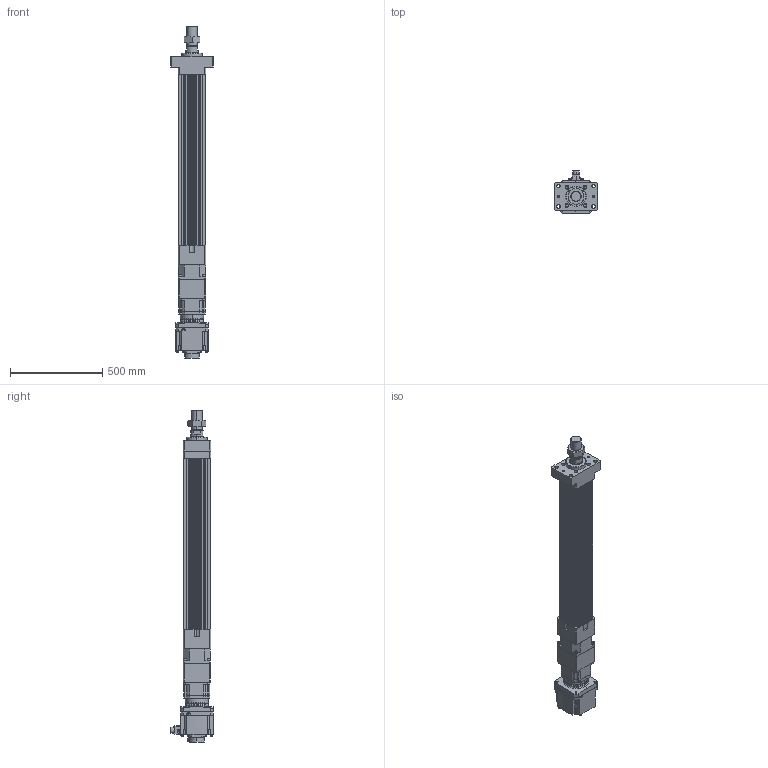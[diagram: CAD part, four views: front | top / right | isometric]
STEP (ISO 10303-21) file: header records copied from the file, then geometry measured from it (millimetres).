
FILE_DESCRIPTION (( 'STEP AP203' ), '1' );
FILE_NAME ('HES150NS(HS)-S650-W035G00-M-FM.STEP', '2023-02-01T04:49:02', ( 'tms' ), ( '' ), 'SwSTEP 2.0', 'SolidWorks 2013', '' );
FILE_SCHEMA (( 'CONFIG_CONTROL_DESIGN' ));
Length unit declared in the file: millimetre
Products named in the file (9): AB1421; AB142-003[HG-SR352]; P1301500001; P0403500801; HES150-S650-G142-FM; HG-SR352; HES150NS(HS)-S650-W035G00-M-FM; HES150 ROD M ST650; M56X2.0P
Assembly tree (8 placements, depth 3):
  HES150NS(HS)-S650-W035G00-M-FM
    HES150-S650-G142-FM
    HES150 ROD M ST650
    M56X2.0P
    AB142-003[HG-SR352]
      AB1421
      P1301500001
      P0403500801
    HG-SR352
Bounding box: 230 x 228.85 x 1797.5 mm (x, y, z)
Volume: 20432063.4 mm3; surface area: 2251643.9 mm2
Topology: 5 solids, 23 shells, 1508 faces, 3908 edges, 2538 vertices
Faces by surface type: cylinder 687, plane 587, cone 152, bspline 76, torus 6
Entity records: 55082 total; most frequent: CARTESIAN_POINT 16753, DIRECTION 8014, ORIENTED_EDGE 7718, EDGE_CURVE 3881, AXIS2_PLACEMENT_3D 3024, VERTEX_POINT 2538, LINE 1966, VECTOR 1966
